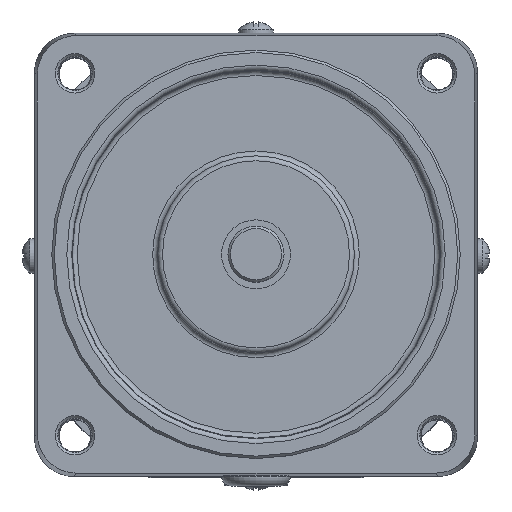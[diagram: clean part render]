
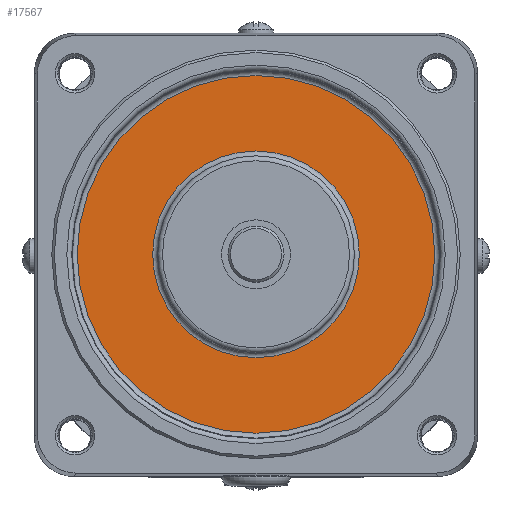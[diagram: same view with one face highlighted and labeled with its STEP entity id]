
A CAD part, top view. The second image highlights one B-rep face of the part: STEP entity #17567.
In plain terms, the highlighted planar face has unit normal (0, 0, 1).
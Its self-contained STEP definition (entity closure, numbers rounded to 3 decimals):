
#512 = DIRECTION ( 'NONE',  ( 1., 0., 0. ) ) ;
#3124 = CARTESIAN_POINT ( 'NONE',  ( 21., 0., 71.5 ) ) ;
#3456 = PLANE ( 'NONE',  #10615 ) ;
#4523 = DIRECTION ( 'NONE',  ( 0., 0., 1. ) ) ;
#4791 = FACE_BOUND ( 'NONE', #10800, .T. ) ;
#5879 = CARTESIAN_POINT ( 'NONE',  ( 0., 0., 71.5 ) ) ;
#6644 = ORIENTED_EDGE ( 'NONE', *, *, #11644, .T. ) ;
#7169 = CARTESIAN_POINT ( 'NONE',  ( 36.341, 0., 71.5 ) ) ;
#7403 = CIRCLE ( 'NONE', #17518, 36.341 ) ;
#8270 = ORIENTED_EDGE ( 'NONE', *, *, #9851, .T. ) ;
#8942 = DIRECTION ( 'NONE',  ( 1., 0., 0. ) ) ;
#9851 = EDGE_CURVE ( 'NONE', #11150, #11150, #15595, .T. ) ;
#9921 = DIRECTION ( 'NONE',  ( 1., 0., 0. ) ) ;
#10615 = AXIS2_PLACEMENT_3D ( 'NONE', #5879, #4523, #8942 ) ;
#10800 = EDGE_LOOP ( 'NONE', ( #8270 ) ) ;
#11150 = VERTEX_POINT ( 'NONE', #3124 ) ;
#11278 = AXIS2_PLACEMENT_3D ( 'NONE', #15930, #15738, #512 ) ;
#11644 = EDGE_CURVE ( 'NONE', #13855, #13855, #7403, .T. ) ;
#12635 = DIRECTION ( 'NONE',  ( 0., 0., 1. ) ) ;
#13011 = FACE_OUTER_BOUND ( 'NONE', #15047, .T. ) ;
#13855 = VERTEX_POINT ( 'NONE', #7169 ) ;
#15047 = EDGE_LOOP ( 'NONE', ( #6644 ) ) ;
#15595 = CIRCLE ( 'NONE', #11278, 21. ) ;
#15738 = DIRECTION ( 'NONE',  ( 0., 0., -1. ) ) ;
#15930 = CARTESIAN_POINT ( 'NONE',  ( 0., 0., 71.5 ) ) ;
#16695 = CARTESIAN_POINT ( 'NONE',  ( 0., 0., 71.5 ) ) ;
#17518 = AXIS2_PLACEMENT_3D ( 'NONE', #16695, #12635, #9921 ) ;
#17567 = ADVANCED_FACE ( 'NONE', ( #13011, #4791 ), #3456, .T. ) ;
